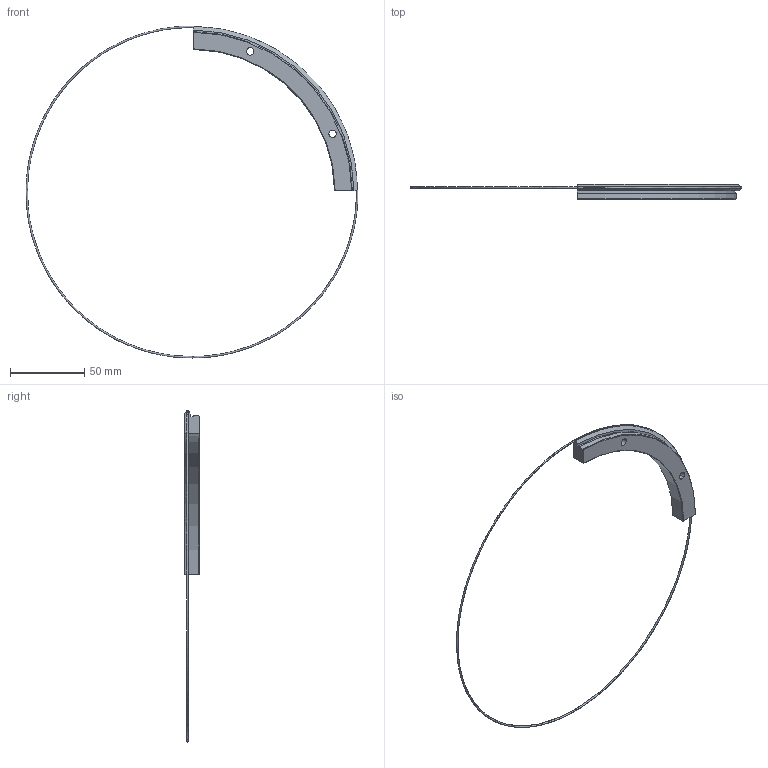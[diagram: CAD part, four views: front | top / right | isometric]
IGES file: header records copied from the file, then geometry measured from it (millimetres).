
Start section: 3D InterOp IGES (v. 2019 1.0.2), Spatial Corp. Copyright (c) 1999-2017.
Global section: file name: REV 223 R90.igs; native system: Spatial Corp.; preprocessor: 3D InterOp GENERIC/IGES 3.0; author: Noname; organization: Noname; date: 20220719.140129; units: millimetre
Bounding box: 223.4 x 10 x 223.4 mm (x, y, z)
Surface area: 10796 mm2 (no closed solid volume)
Topology: 0 solids, 0 shells, 24 faces, 122 edges, 121 vertices
Faces by surface type: revolution 16, extrusion 8
